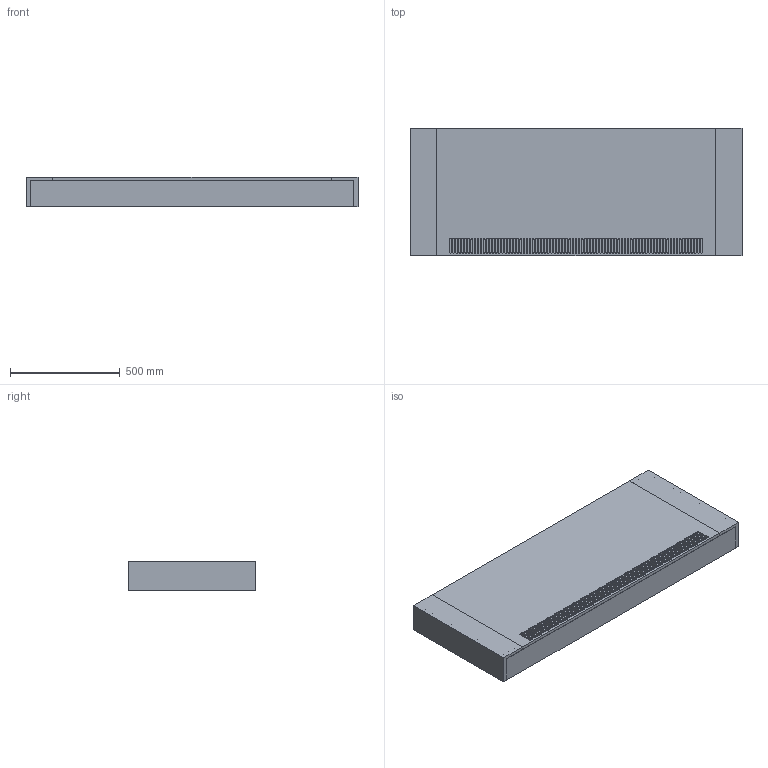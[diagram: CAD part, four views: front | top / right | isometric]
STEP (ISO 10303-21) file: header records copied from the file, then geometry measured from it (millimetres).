
FILE_DESCRIPTION (( 'STEP AP214' ), '1' );
FILE_NAME ('PFWSL_square_model05_4-pipe_v2.STEP', '2024-11-11T13:37:32', ( '' ), ( '' ), 'SwSTEP 2.0', 'SolidWorks 2023', '' );
FILE_SCHEMA (( 'AUTOMOTIVE_DESIGN' ));
Length unit declared in the file: inch
Products named in the file (1): PFWSL_square_model05_4-pipe_v2
Bounding box: 1514.47 x 582.61 x 134.94 mm (x, y, z)
Volume: 97256867.8 mm3; surface area: 4689848.7 mm2
Topology: 25 solids, 25 shells, 658 faces, 1758 edges, 1168 vertices
Faces by surface type: plane 388, cylinder 262, torus 8
Entity records: 21305 total; most frequent: DIRECTION 3612, CARTESIAN_POINT 3585, ORIENTED_EDGE 3516, EDGE_CURVE 1758, LINE 1222, VECTOR 1222, AXIS2_PLACEMENT_3D 1195, VERTEX_POINT 1168
